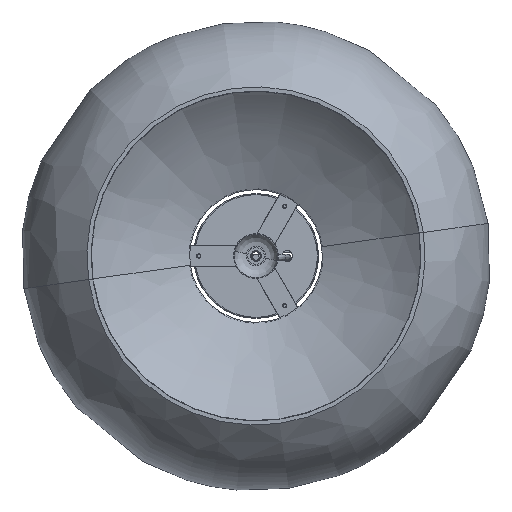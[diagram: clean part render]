
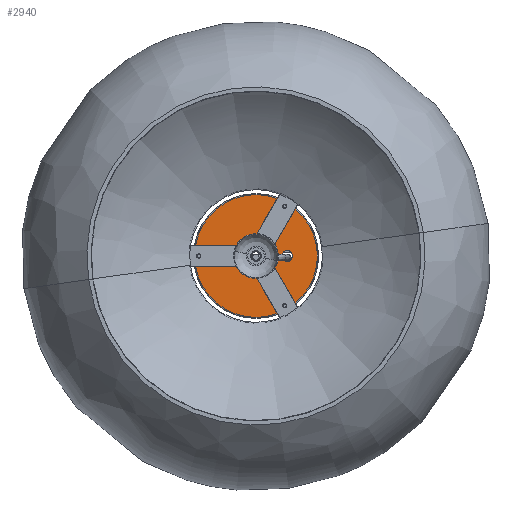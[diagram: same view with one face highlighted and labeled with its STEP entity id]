
A CAD part, front view. The second image highlights one B-rep face of the part: STEP entity #2940.
In plain terms, the highlighted planar face has unit normal (0, -1, 0).
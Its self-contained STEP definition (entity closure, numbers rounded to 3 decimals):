
#131=PLANE('',#3228);
#179=FACE_BOUND('',#586,.T.);
#180=FACE_BOUND('',#587,.T.);
#396=FACE_OUTER_BOUND('',#585,.T.);
#585=EDGE_LOOP('',(#2444,#2445));
#586=EDGE_LOOP('',(#2446,#2447));
#587=EDGE_LOOP('',(#2448,#2449));
#1159=CIRCLE('',#3202,5.125);
#1161=CIRCLE('',#3205,5.125);
#1163=CIRCLE('',#3208,59.);
#1178=CIRCLE('',#3229,59.);
#1179=CIRCLE('',#3230,5.125);
#1180=CIRCLE('',#3231,5.125);
#1407=VERTEX_POINT('',#5538);
#1408=VERTEX_POINT('',#5539);
#1411=VERTEX_POINT('',#5547);
#1412=VERTEX_POINT('',#5548);
#1415=VERTEX_POINT('',#5556);
#1416=VERTEX_POINT('',#5557);
#1760=EDGE_CURVE('',#1407,#1408,#1159,.T.);
#1764=EDGE_CURVE('',#1411,#1412,#1161,.T.);
#1768=EDGE_CURVE('',#1415,#1416,#1163,.T.);
#1798=EDGE_CURVE('',#1416,#1415,#1178,.T.);
#1799=EDGE_CURVE('',#1408,#1407,#1179,.T.);
#1800=EDGE_CURVE('',#1412,#1411,#1180,.T.);
#2444=ORIENTED_EDGE('',*,*,#1798,.T.);
#2445=ORIENTED_EDGE('',*,*,#1768,.T.);
#2446=ORIENTED_EDGE('',*,*,#1799,.T.);
#2447=ORIENTED_EDGE('',*,*,#1760,.T.);
#2448=ORIENTED_EDGE('',*,*,#1800,.T.);
#2449=ORIENTED_EDGE('',*,*,#1764,.T.);
#2940=ADVANCED_FACE('',(#396,#179,#180),#131,.F.);
#3202=AXIS2_PLACEMENT_3D('',#5540,#3857,#3858);
#3205=AXIS2_PLACEMENT_3D('',#5549,#3865,#3866);
#3208=AXIS2_PLACEMENT_3D('',#5558,#3873,#3874);
#3228=AXIS2_PLACEMENT_3D('',#5653,#3925,#3926);
#3229=AXIS2_PLACEMENT_3D('',#5654,#3927,#3928);
#3230=AXIS2_PLACEMENT_3D('',#5655,#3929,#3930);
#3231=AXIS2_PLACEMENT_3D('',#5656,#3931,#3932);
#3857=DIRECTION('center_axis',(0.,1.,0.));
#3858=DIRECTION('ref_axis',(0.,0.,1.));
#3865=DIRECTION('center_axis',(0.,1.,0.));
#3866=DIRECTION('ref_axis',(0.,0.,1.));
#3873=DIRECTION('center_axis',(0.,-1.,0.));
#3874=DIRECTION('ref_axis',(0.,0.,1.));
#3925=DIRECTION('center_axis',(0.,1.,0.));
#3926=DIRECTION('ref_axis',(0.,0.,1.));
#3927=DIRECTION('center_axis',(0.,-1.,0.));
#3928=DIRECTION('ref_axis',(0.,0.,1.));
#3929=DIRECTION('center_axis',(0.,1.,0.));
#3930=DIRECTION('ref_axis',(0.,0.,1.));
#3931=DIRECTION('center_axis',(0.,1.,0.));
#3932=DIRECTION('ref_axis',(0.,0.,1.));
#5538=CARTESIAN_POINT('',(30.,0.,-5.125));
#5539=CARTESIAN_POINT('',(30.,0.,5.125));
#5540=CARTESIAN_POINT('Origin',(30.,0.,0.));
#5547=CARTESIAN_POINT('',(0.,0.,-5.125));
#5548=CARTESIAN_POINT('',(0.,0.,5.125));
#5549=CARTESIAN_POINT('Origin',(0.,0.,0.));
#5556=CARTESIAN_POINT('',(0.,0.,-59.));
#5557=CARTESIAN_POINT('',(0.,0.,59.));
#5558=CARTESIAN_POINT('Origin',(0.,0.,0.));
#5653=CARTESIAN_POINT('Origin',(0.,0.,0.));
#5654=CARTESIAN_POINT('Origin',(0.,0.,0.));
#5655=CARTESIAN_POINT('Origin',(30.,0.,0.));
#5656=CARTESIAN_POINT('Origin',(0.,0.,0.));
